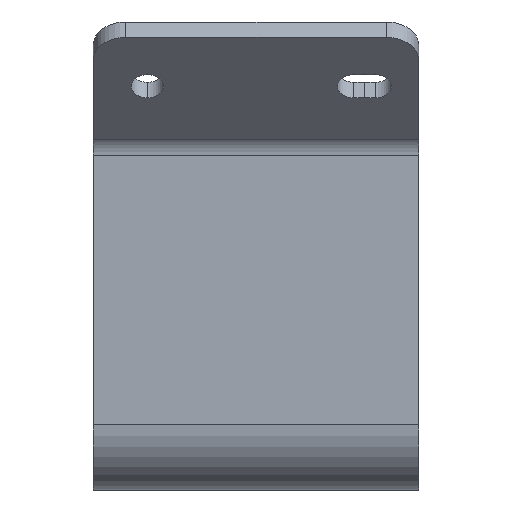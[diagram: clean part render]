
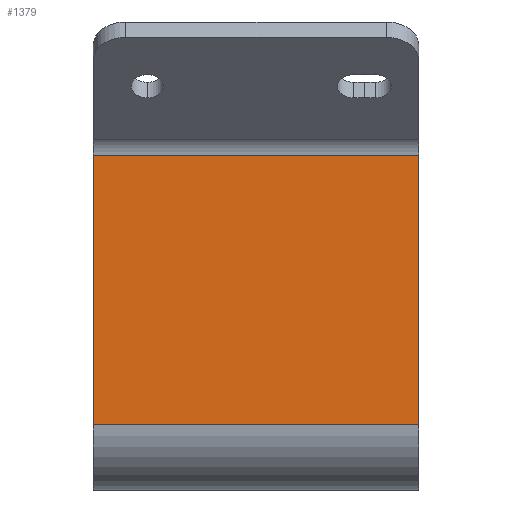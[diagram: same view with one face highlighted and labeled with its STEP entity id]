
A CAD part, left-side view. The second image highlights one B-rep face of the part: STEP entity #1379.
In plain terms, the highlighted planar face has unit normal (-1, 0, 0).
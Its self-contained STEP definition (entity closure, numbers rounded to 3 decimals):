
#108=DIRECTION('',(0.,-1.,0.));
#109=VECTOR('',#108,60.);
#110=CARTESIAN_POINT('',(-62.5,30.,12.));
#111=LINE('',#110,#109);
#138=DIRECTION('',(0.,0.,1.));
#139=VECTOR('',#138,49.686);
#140=CARTESIAN_POINT('',(-62.5,-30.,12.));
#141=LINE('',#140,#139);
#145=DIRECTION('',(0.,0.,-1.));
#146=VECTOR('',#145,49.686);
#147=CARTESIAN_POINT('',(-62.5,30.,61.686));
#148=LINE('',#147,#146);
#454=DIRECTION('',(0.,1.,0.));
#455=VECTOR('',#454,60.);
#456=CARTESIAN_POINT('',(-62.5,-30.,61.686));
#457=LINE('',#456,#455);
#1146=CARTESIAN_POINT('',(-62.5,30.,12.));
#1147=CARTESIAN_POINT('',(-62.5,-30.,12.));
#1148=VERTEX_POINT('',#1146);
#1149=VERTEX_POINT('',#1147);
#1190=CARTESIAN_POINT('',(-62.5,30.,61.686));
#1191=VERTEX_POINT('',#1190);
#1192=CARTESIAN_POINT('',(-62.5,-30.,61.686));
#1193=VERTEX_POINT('',#1192);
#1365=CARTESIAN_POINT('',(-62.5,-30.,0.));
#1366=DIRECTION('',(-1.,0.,0.));
#1367=DIRECTION('',(0.,-1.,0.));
#1368=AXIS2_PLACEMENT_3D('',#1365,#1366,#1367);
#1369=PLANE('',#1368);
#1371=ORIENTED_EDGE('',*,*,#1370,.F.);
#1372=ORIENTED_EDGE('',*,*,#1355,.F.);
#1374=ORIENTED_EDGE('',*,*,#1373,.F.);
#1376=ORIENTED_EDGE('',*,*,#1375,.F.);
#1377=EDGE_LOOP('',(#1371,#1372,#1374,#1376));
#1378=FACE_OUTER_BOUND('',#1377,.F.);
#1355=EDGE_CURVE('',#1148,#1149,#111,.T.);
#1370=EDGE_CURVE('',#1149,#1193,#141,.T.);
#1373=EDGE_CURVE('',#1191,#1148,#148,.T.);
#1375=EDGE_CURVE('',#1193,#1191,#457,.T.);
#1379=ADVANCED_FACE('',(#1378),#1369,.T.);
